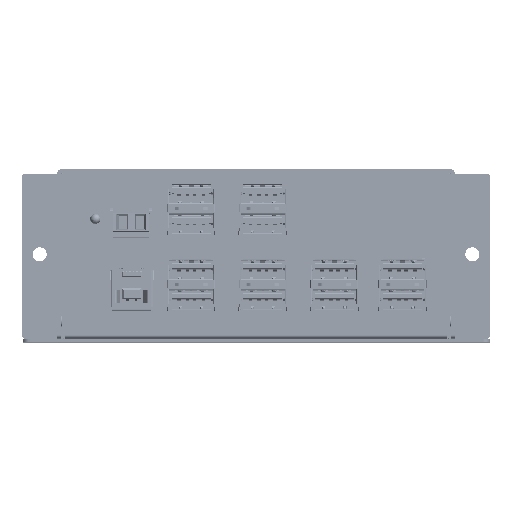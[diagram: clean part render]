
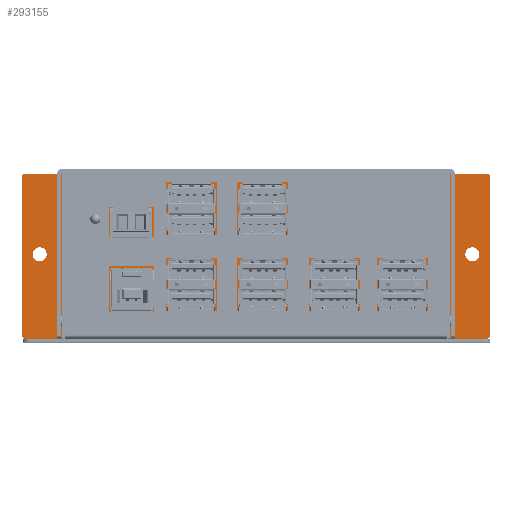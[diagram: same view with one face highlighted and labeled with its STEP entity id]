
A CAD part, top view. The second image highlights one B-rep face of the part: STEP entity #293155.
In plain terms, the highlighted planar face has unit normal (0, 0, 1).
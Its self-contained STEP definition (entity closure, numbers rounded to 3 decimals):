
#6307=FACE_BOUND('',#38982,.T.);
#6308=FACE_BOUND('',#38983,.T.);
#6309=FACE_BOUND('',#38984,.T.);
#6310=FACE_BOUND('',#38985,.T.);
#6311=FACE_BOUND('',#38986,.T.);
#6312=FACE_BOUND('',#38987,.T.);
#9608=CIRCLE('',#312790,1.23);
#9610=CIRCLE('',#312793,1.23);
#9612=CIRCLE('',#312796,1.23);
#9614=CIRCLE('',#312799,1.23);
#9617=CIRCLE('',#312803,2.);
#9618=CIRCLE('',#312805,2.);
#9774=CIRCLE('',#313043,1.);
#9776=CIRCLE('',#313046,1.);
#9778=CIRCLE('',#313049,1.);
#9780=CIRCLE('',#313052,1.);
#23043=FACE_OUTER_BOUND('',#38981,.T.);
#38981=EDGE_LOOP('',(#223006,#223007,#223008,#223009,#223010,#223011,#223012,
#223013,#223014,#223015));
#38982=EDGE_LOOP('',(#223016));
#38983=EDGE_LOOP('',(#223017));
#38984=EDGE_LOOP('',(#223018));
#38985=EDGE_LOOP('',(#223019));
#38986=EDGE_LOOP('',(#223020));
#38987=EDGE_LOOP('',(#223021));
#64539=LINE('',#491286,#98127);
#64540=LINE('',#491288,#98128);
#64541=LINE('',#491290,#98129);
#64542=LINE('',#491291,#98130);
#64543=LINE('',#491292,#98131);
#64544=LINE('',#491293,#98132);
#98127=VECTOR('',#361372,10.);
#98128=VECTOR('',#361375,10.);
#98129=VECTOR('',#361376,10.);
#98130=VECTOR('',#361377,10.);
#98131=VECTOR('',#361378,10.);
#98132=VECTOR('',#361379,10.);
#130223=VERTEX_POINT('',#490715);
#130225=VERTEX_POINT('',#490721);
#130227=VERTEX_POINT('',#490727);
#130229=VERTEX_POINT('',#490733);
#130232=VERTEX_POINT('',#490741);
#130233=VERTEX_POINT('',#490745);
#130405=VERTEX_POINT('',#491249);
#130406=VERTEX_POINT('',#491251);
#130409=VERTEX_POINT('',#491258);
#130410=VERTEX_POINT('',#491260);
#130413=VERTEX_POINT('',#491267);
#130414=VERTEX_POINT('',#491269);
#130417=VERTEX_POINT('',#491276);
#130418=VERTEX_POINT('',#491278);
#130420=VERTEX_POINT('',#491284);
#130421=VERTEX_POINT('',#491289);
#164665=EDGE_CURVE('',#130223,#130223,#9608,.T.);
#164668=EDGE_CURVE('',#130225,#130225,#9610,.T.);
#164671=EDGE_CURVE('',#130227,#130227,#9612,.T.);
#164674=EDGE_CURVE('',#130229,#130229,#9614,.T.);
#164679=EDGE_CURVE('',#130232,#130232,#9617,.T.);
#164680=EDGE_CURVE('',#130233,#130233,#9618,.T.);
#164931=EDGE_CURVE('',#130406,#130405,#9774,.T.);
#164935=EDGE_CURVE('',#130410,#130409,#9776,.T.);
#164939=EDGE_CURVE('',#130414,#130413,#9778,.T.);
#164943=EDGE_CURVE('',#130418,#130417,#9780,.T.);
#164947=EDGE_CURVE('',#130420,#130417,#64539,.T.);
#164948=EDGE_CURVE('',#130418,#130405,#64540,.T.);
#164949=EDGE_CURVE('',#130420,#130421,#64541,.T.);
#164950=EDGE_CURVE('',#130421,#130410,#64542,.T.);
#164951=EDGE_CURVE('',#130409,#130414,#64543,.T.);
#164952=EDGE_CURVE('',#130413,#130406,#64544,.T.);
#223006=ORIENTED_EDGE('',*,*,#164931,.T.);
#223007=ORIENTED_EDGE('',*,*,#164948,.F.);
#223008=ORIENTED_EDGE('',*,*,#164943,.T.);
#223009=ORIENTED_EDGE('',*,*,#164947,.F.);
#223010=ORIENTED_EDGE('',*,*,#164949,.T.);
#223011=ORIENTED_EDGE('',*,*,#164950,.T.);
#223012=ORIENTED_EDGE('',*,*,#164935,.T.);
#223013=ORIENTED_EDGE('',*,*,#164951,.T.);
#223014=ORIENTED_EDGE('',*,*,#164939,.T.);
#223015=ORIENTED_EDGE('',*,*,#164952,.T.);
#223016=ORIENTED_EDGE('',*,*,#164665,.T.);
#223017=ORIENTED_EDGE('',*,*,#164668,.T.);
#223018=ORIENTED_EDGE('',*,*,#164671,.T.);
#223019=ORIENTED_EDGE('',*,*,#164674,.T.);
#223020=ORIENTED_EDGE('',*,*,#164679,.T.);
#223021=ORIENTED_EDGE('',*,*,#164680,.T.);
#280059=PLANE('',#313054);
#293155=ADVANCED_FACE('',(#23043,#6307,#6308,#6309,#6310,#6311,#6312),#280059,
 .F.);
#312790=AXIS2_PLACEMENT_3D('',#490716,#360735,#360736);
#312793=AXIS2_PLACEMENT_3D('',#490722,#360742,#360743);
#312796=AXIS2_PLACEMENT_3D('',#490728,#360749,#360750);
#312799=AXIS2_PLACEMENT_3D('',#490734,#360756,#360757);
#312803=AXIS2_PLACEMENT_3D('',#490743,#360766,#360767);
#312805=AXIS2_PLACEMENT_3D('',#490746,#360770,#360771);
#313043=AXIS2_PLACEMENT_3D('',#491252,#361341,#361342);
#313046=AXIS2_PLACEMENT_3D('',#491261,#361349,#361350);
#313049=AXIS2_PLACEMENT_3D('',#491270,#361357,#361358);
#313052=AXIS2_PLACEMENT_3D('',#491279,#361365,#361366);
#313054=AXIS2_PLACEMENT_3D('',#491287,#361373,#361374);
#360735=DIRECTION('center_axis',(0.,0.,
-1.));
#360736=DIRECTION('ref_axis',(-1.,0.,0.));
#360742=DIRECTION('center_axis',(0.,0.,
-1.));
#360743=DIRECTION('ref_axis',(-1.,0.,0.));
#360749=DIRECTION('center_axis',(0.,0.,
-1.));
#360750=DIRECTION('ref_axis',(-1.,0.,0.));
#360756=DIRECTION('center_axis',(0.,0.,
-1.));
#360757=DIRECTION('ref_axis',(-1.,0.,0.));
#360766=DIRECTION('center_axis',(0.,0.,
-1.));
#360767=DIRECTION('ref_axis',(1.,0.,0.));
#360770=DIRECTION('center_axis',(0.,0.,
-1.));
#360771=DIRECTION('ref_axis',(-1.,0.,0.));
#361341=DIRECTION('center_axis',(0.,0.,
1.));
#361342=DIRECTION('ref_axis',(0.,1.,0.));
#361349=DIRECTION('center_axis',(0.,0.,
1.));
#361350=DIRECTION('ref_axis',(0.,-1.,0.));
#361357=DIRECTION('center_axis',(0.,0.,
1.));
#361358=DIRECTION('ref_axis',(1.,0.,0.));
#361365=DIRECTION('center_axis',(0.,0.,
1.));
#361366=DIRECTION('ref_axis',(-1.,0.,0.));
#361372=DIRECTION('',(1.,0.,0.));
#361373=DIRECTION('center_axis',(0.,0.,
-1.));
#361374=DIRECTION('ref_axis',(0.,1.,0.));
#361375=DIRECTION('',(0.,-1.,0.));
#361376=DIRECTION('',(-1.,0.,0.));
#361377=DIRECTION('',(-1.,0.,0.));
#361378=DIRECTION('',(0.,-1.,0.));
#361379=DIRECTION('',(1.,0.,0.));
#490715=CARTESIAN_POINT('',(-7.417,-14.966,-26.531));
#490716=CARTESIAN_POINT('Origin',(-8.647,-14.966,-26.531));
#490721=CARTESIAN_POINT('',(-7.417,-2.066,-26.531));
#490722=CARTESIAN_POINT('Origin',(-8.647,-2.066,-26.531));
#490727=CARTESIAN_POINT('',(-13.917,-8.516,-26.531));
#490728=CARTESIAN_POINT('Origin',(-15.147,-8.516,-26.531));
#490733=CARTESIAN_POINT('',(-0.917,-8.516,-26.531));
#490734=CARTESIAN_POINT('Origin',(-2.147,-8.516,-26.531));
#490741=CARTESIAN_POINT('',(-71.972,-8.541,-26.531));
#490743=CARTESIAN_POINT('Origin',(-69.972,-8.541,-26.531));
#490745=CARTESIAN_POINT('',(54.678,-8.541,-26.531));
#490746=CARTESIAN_POINT('Origin',(52.678,-8.541,-26.531));
#491249=CARTESIAN_POINT('',(57.678,-31.541,-26.531));
#491251=CARTESIAN_POINT('',(56.678,-32.541,-26.531));
#491252=CARTESIAN_POINT('Origin',(56.678,-31.541,-26.531));
#491258=CARTESIAN_POINT('',(-74.972,13.359,-26.531));
#491260=CARTESIAN_POINT('',(-73.972,14.359,-26.531));
#491261=CARTESIAN_POINT('Origin',(-73.972,13.359,-26.531));
#491267=CARTESIAN_POINT('',(-73.972,-32.541,-26.531));
#491269=CARTESIAN_POINT('',(-74.972,-31.541,-26.531));
#491270=CARTESIAN_POINT('Origin',(-73.972,-31.541,-26.531));
#491276=CARTESIAN_POINT('',(56.678,14.359,-26.531));
#491278=CARTESIAN_POINT('',(57.678,13.359,-26.531));
#491279=CARTESIAN_POINT('Origin',(56.678,13.359,-26.531));
#491284=CARTESIAN_POINT('',(46.578,14.359,-26.531));
#491286=CARTESIAN_POINT('',(47.678,14.359,-26.531));
#491287=CARTESIAN_POINT('Origin',(-8.647,-8.666,-26.531));
#491288=CARTESIAN_POINT('',(57.678,14.359,-26.531));
#491289=CARTESIAN_POINT('',(-63.872,14.359,-26.531));
#491290=CARTESIAN_POINT('',(-8.647,14.359,-26.531));
#491291=CARTESIAN_POINT('',(-8.647,14.359,-26.531));
#491292=CARTESIAN_POINT('',(-74.972,14.359,-26.531));
#491293=CARTESIAN_POINT('',(47.678,-32.541,-26.531));
